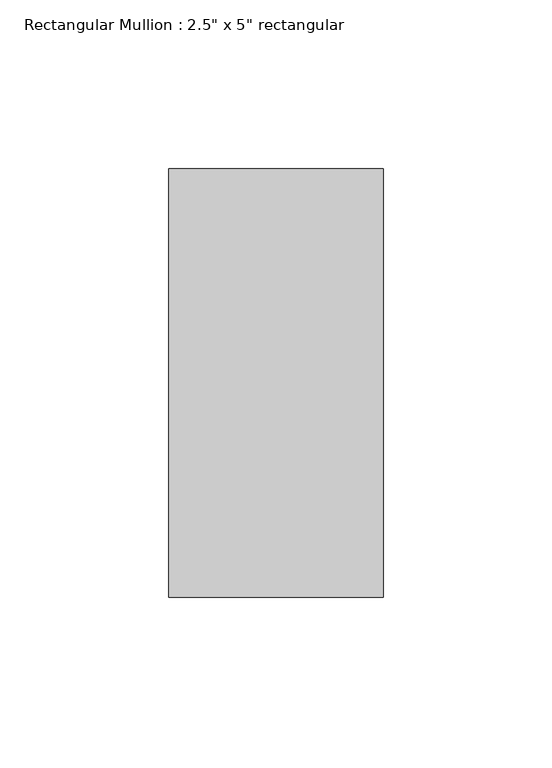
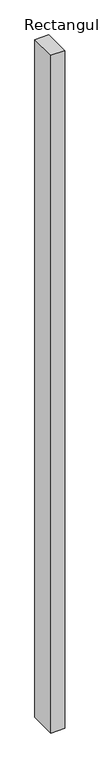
"""IFC4 building model written with IfcOpenShell, lengths in millimetres: member geometry."""

from ifc_helpers import new_model, si_unit, frame, origin, place, context, project, spatial, polyline, outline, extrude, source, transform, mapped, element, save


def member_2d82c926(model_context):
    return source(origin(), model_context, "Body", "SweptSolid", [
        extrude(outline(polyline([(0.0, 63.5), (0.0, -63.5), (-63.5, -63.5), (-63.5, 63.5), (0.0, 63.5)])), frame((0.0, 0.0, -3273.425), z_axis=(0.0, 0.0, 1.0), x_axis=(1.0, 0.0, 0.0)), (0.0, 0.0, 1.0), 3273.425),
    ])


if __name__ == "__main__":
    model = new_model("IFC4")
    model_context = context("Model", 3, world=origin())
    ifc_project = project(units=[si_unit("LENGTHUNIT", "METRE", prefix="MILLI")], contexts=[model_context])
    site = spatial("IfcSite", under=ifc_project)
    building = spatial("IfcBuilding", under=site)
    placement = place(None, origin())
    member_shape = member_2d82c926(model_context)
    element("IfcMember", 1, ObjectType="Rectangular Mullion : 2.5\" x 5\" rectangular", at=placement, inside=building, context=model_context, shape_type="MappedRepresentation", body=[
        mapped(member_shape, transform((0.0, 0.0, 0.0), x_axis=(1.0, 0.0, 0.0), y_axis=(0.0, 1.0, 0.0), z_axis=(0.0, 0.0, 1.0))),
    ])
    save(model, "model.ifc")
